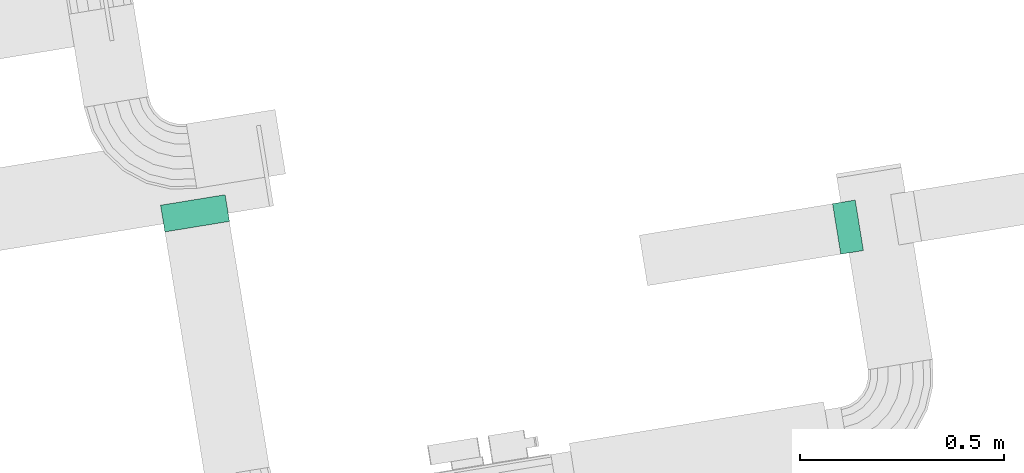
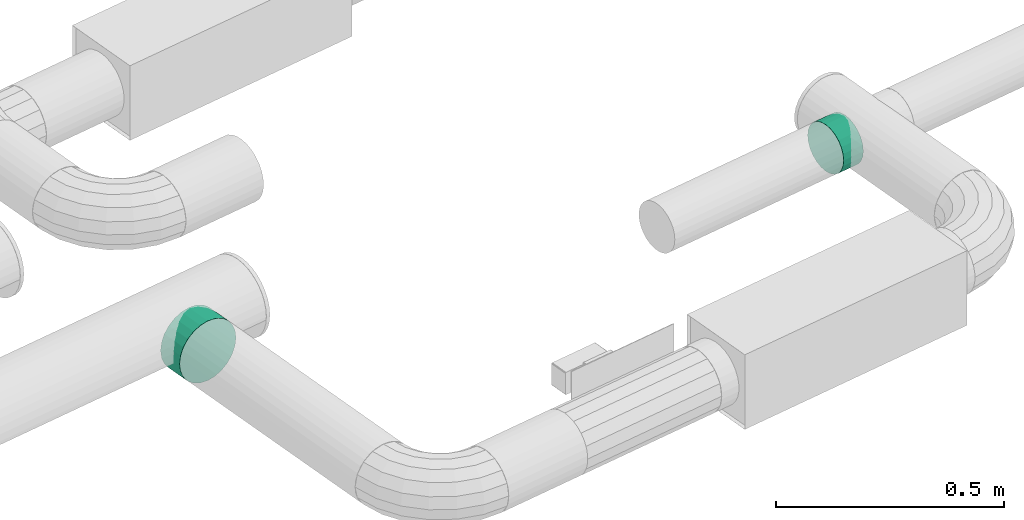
# One storey, part 14 of 19: 2 flow fittings.
"""IFC2X3 building model written with IfcOpenShell, lengths in millimetres."""

from ifc_helpers import new_model, entity, si_unit, converted_unit, derived_unit, direction, frame, origin, origin_with_axes, place, context, subcontext, project, spatial, faceted_brep, source, transform, mapped, material, type_object, element, save


model = new_model("IFC2X3")

# Units and contexts
model_context = context("Model", 3, precision=0.01, world=origin(), true_north=direction((6.12323399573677e-17, 1.0)))
plan_context = context("Plan", 3, precision=1e-05, world=origin_with_axes())
body_context = subcontext(model_context, "Body", "Model", "MODEL_VIEW")
ifc_project = project(units=[converted_unit("PLANEANGLEUNIT", "DEGREE", entity("IfcPositiveLengthMeasure", 0.0174532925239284), si_unit("PLANEANGLEUNIT", "RADIAN"), dimensions=[0, 0, 0, 0, 0, 0, 0]), si_unit("AREAUNIT", "SQUARE_METRE"), si_unit("LENGTHUNIT", "METRE", prefix="MILLI"), si_unit("MASSUNIT", "GRAM", prefix="KILO"), si_unit("POWERUNIT", "WATT"), si_unit("PRESSUREUNIT", "PASCAL", prefix="KILO"), si_unit("FORCEUNIT", "NEWTON", prefix="KILO"), si_unit("ELECTRICVOLTAGEUNIT", "VOLT"), si_unit("ELECTRICCURRENTUNIT", "AMPERE"), si_unit("THERMODYNAMICTEMPERATUREUNIT", "DEGREE_CELSIUS"), si_unit("TIMEUNIT", "SECOND"), si_unit("VOLUMEUNIT", "CUBIC_METRE"), derived_unit("LINEARVELOCITYUNIT", [(si_unit("LENGTHUNIT", "METRE"), 1), (si_unit("TIMEUNIT", "SECOND"), -1)]), derived_unit("VOLUMETRICFLOWRATEUNIT", [(si_unit("VOLUMEUNIT", "CUBIC_METRE"), 1), (si_unit("TIMEUNIT", "SECOND"), -1)]), derived_unit("THERMALTRANSMITTANCEUNIT", [(si_unit("POWERUNIT", "WATT"), 1), (si_unit("THERMODYNAMICTEMPERATUREUNIT", "KELVIN"), -1), (si_unit("AREAUNIT", "SQUARE_METRE"), -1)]), derived_unit("SOUNDPRESSUREUNIT", [(si_unit("PRESSUREUNIT", "PASCAL"), 1)])], contexts=[model_context, plan_context])

# Site, building, storey
site_placement = place(None, frame((5.09380697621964e-08, 5.80416781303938e-08, 0.0), z_axis=(0.0, 0.0, 1.0), x_axis=(-0.160806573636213, 0.986985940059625, 0.0)))
site = spatial("IfcSite", under=ifc_project, at=site_placement, Name="Default", CompositionType="ELEMENT")
building_placement = place(site_placement, frame((0.0, 0.0, 0.0), z_axis=(0.0, 0.0, 1.0), x_axis=(1.0, -2.77555756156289e-17, 0.0)))
building = spatial("IfcBuilding", under=site, at=building_placement, Name="Bygning (endres i Project Information)", CompositionType="ELEMENT")
storey_placement = place(building_placement, frame((0.0, 0.0, 51360.0000000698), z_axis=(0.0, 0.0, 1.0), x_axis=(1.0, -2.77555756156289e-17, 0.0)))
storey = spatial("IfcBuildingStorey", under=building, at=storey_placement, Name="H01-Nivå D+0,36", CompositionType="ELEMENT", Elevation=51360.0000000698)

# Flow fittings
ifc_material = material(Name="3601.001 Tilluft")
duct_fitting_type_1 = type_object("IfcDuctFittingType", Name="magicirc_tapoutlet_001:magicirc_tapoutlet_001", PredefinedType="NOTDEFINED", material=ifc_material)
shared_shape_1 = source(origin(), body_context, "Body", "Brep", [
    faceted_brep([(-36.1585390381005, 0.0, -62.5000000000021), (-36.1585390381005, -16.1761903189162, -60.3703641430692), (-36.1585390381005, -31.250000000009, -54.1265877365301), (-36.1585390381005, -44.1941738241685, -44.194173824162), (-36.1585390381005, -54.1265877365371, -31.2500000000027), (-36.1585390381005, -60.3703641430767, -16.1761903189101), (-36.1585390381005, -62.5000000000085, 0.0), (-36.1585390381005, -60.3703641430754, 16.1761903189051), (-36.1585390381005, -54.1265877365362, 31.2499999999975), (-36.1585390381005, -44.1941738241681, 44.1941738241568), (-36.1585390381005, -31.2500000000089, 54.1265877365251), (-36.1585390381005, -16.1761903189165, 60.3703641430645), (-36.1585390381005, 0.0, 62.4999999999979), (-36.1585390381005, 16.1761903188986, 60.3703641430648), (-36.1585390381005, 31.249999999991, 54.1265877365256), (-36.1585390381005, 44.1941738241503, 44.1941738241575), (-36.1585390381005, 54.1265877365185, 31.2499999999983), (-36.1585390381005, 60.3703641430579, 16.176190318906), (-36.1585390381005, 62.4999999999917, 0.0), (-36.1585390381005, 60.3703641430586, -16.1761903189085), (-36.1585390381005, 54.1265877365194, -31.2500000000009), (-36.1585390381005, 44.1941738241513, -44.1941738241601), (-36.1585390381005, 31.2499999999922, -54.1265877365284), (-36.1585390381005, 16.1761903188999, -60.3703641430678), (0.0, 0.0, 62.4999999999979), (20.0, 0.0, 62.4999999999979), (20.0, 16.1761903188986, 60.3703641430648), (0.0, 16.1761903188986, 60.3703641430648), (20.0, 31.249999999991, 54.1265877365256), (0.0, 31.249999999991, 54.1265877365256), (20.0, 44.1941738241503, 44.1941738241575), (0.0, 44.1941738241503, 44.1941738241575), (0.0, 54.1265877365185, 31.2499999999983), (20.0, 54.1265877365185, 31.2499999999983), (20.0, 60.3703641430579, 16.176190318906), (0.0, 60.3703641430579, 16.1761903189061), (20.0, 62.4999999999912, 0.0), (0.0, 62.4999999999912, 0.0), (20.0, 60.3703641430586, -16.1761903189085), (0.0, 60.3703641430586, -16.1761903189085), (20.0, 54.1265877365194, -31.2500000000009), (0.0, 54.1265877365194, -31.2500000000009), (20.0, 44.1941738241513, -44.1941738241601), (0.0, 44.1941738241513, -44.1941738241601), (0.0, 31.2499999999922, -54.1265877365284), (20.0, 31.2499999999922, -54.1265877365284), (20.0, 16.1761903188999, -60.3703641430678), (0.0, 16.1761903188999, -60.3703641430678), (20.0, 0.0, -62.5000000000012), (0.0, 0.0, -62.5000000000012), (20.0, -16.1761903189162, -60.3703641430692), (0.0, -16.1761903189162, -60.3703641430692), (20.0, -31.250000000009, -54.1265877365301), (0.0, -31.250000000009, -54.1265877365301), (20.0, -44.1941738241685, -44.194173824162), (0.0, -44.1941738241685, -44.194173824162), (0.0, -54.1265877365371, -31.2500000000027), (20.0, -54.1265877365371, -31.2500000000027), (20.0, -60.3703641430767, -16.1761903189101), (0.0, -60.3703641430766, -16.1761903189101), (20.0, -62.50000000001, 0.0), (0.0, -62.50000000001, 0.0), (20.0, -60.3703641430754, 16.1761903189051), (0.0, -60.3703641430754, 16.176190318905), (20.0, -54.1265877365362, 31.2499999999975), (0.0, -54.1265877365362, 31.2499999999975), (20.0, -44.1941738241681, 44.1941738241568), (0.0, -44.1941738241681, 44.1941738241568), (0.0, -31.2500000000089, 54.1265877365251), (20.0, -31.2500000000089, 54.1265877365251), (20.0, -16.1761903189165, 60.3703641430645), (0.0, -16.1761903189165, 60.3703641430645)], [[[0, 1, 2, 3, 4, 5, 6, 7, 8, 9, 10, 11, 12, 13, 14, 15, 16, 17, 18, 19, 20, 21, 22, 23]], [[12, 24, 25, 26, 27, 13]], [[13, 27, 26, 28, 29, 14]], [[14, 29, 28, 30, 31, 15]], [[16, 32, 33, 34, 35, 17]], [[17, 35, 34, 36, 37, 18]], [[15, 31, 30, 33, 32, 16]], [[18, 37, 36, 38, 39, 19]], [[19, 39, 38, 40, 41, 20]], [[20, 41, 40, 42, 43, 21]], [[22, 44, 45, 46, 47, 23]], [[23, 47, 46, 48, 49, 0]], [[21, 43, 42, 45, 44, 22]], [[0, 49, 48, 50, 51, 1]], [[1, 51, 50, 52, 53, 2]], [[2, 53, 52, 54, 55, 3]], [[4, 56, 57, 58, 59, 5]], [[6, 5, 59, 58, 60, 61]], [[3, 55, 54, 57, 56, 4]], [[6, 61, 60, 62, 63, 7]], [[7, 63, 62, 64, 65, 8]], [[8, 65, 64, 66, 67, 9]], [[10, 68, 69, 70, 71, 11]], [[11, 71, 70, 25, 24, 12]], [[9, 67, 66, 69, 68, 10]], [[46, 45, 42, 40, 38, 36, 34, 33, 30, 28, 26, 25, 70, 69, 66, 64, 62, 60, 58, 57, 54, 52, 50, 48]]]),
    faceted_brep([(20.0, 16.1761903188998, -60.3703641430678), (20.0, 31.2499999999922, -54.1265877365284), (20.0, 44.1941738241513, -44.1941738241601), (20.0, 54.1265877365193, -31.2500000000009), (20.0, 60.3703641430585, -16.1761903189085), (20.0, 62.4999999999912, 0.0), (20.0, 60.3703641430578, 16.176190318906), (20.0, 54.1265877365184, 31.2499999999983), (20.0, 44.1941738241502, 44.1941738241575), (20.0, 31.2499999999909, 54.1265877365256), (20.0, 16.1761903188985, 60.3703641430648), (20.0, 0.0, 62.4999999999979), (20.0, -16.1761903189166, 60.3703641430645), (20.0, -31.250000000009, 54.1265877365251), (20.0, -44.1941738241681, 44.1941738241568), (20.0, -54.1265877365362, 31.2499999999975), (20.0, -60.3703641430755, 16.1761903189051), (20.0, -62.5000000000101, 0.0), (20.0, -60.3703641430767, -16.1761903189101), (20.0, -54.1265877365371, -31.2500000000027), (20.0, -44.1941738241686, -44.194173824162), (20.0, -31.250000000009, -54.1265877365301), (20.0, -16.1761903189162, -60.3703641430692), (20.0, 0.0, -62.5000000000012), (0.0, 0.0, 62.4999999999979), (0.0, 16.1761903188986, 60.3703641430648), (-36.1585390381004, 16.1761903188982, 60.3703641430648), (-36.1585390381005, 0.0, 62.4999999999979), (0.0, 31.249999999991, 54.1265877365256), (-36.1585390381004, 31.2499999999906, 54.1265877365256), (0.0, 44.1941738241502, 44.1941738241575), (-36.1585390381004, 44.1941738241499, 44.1941738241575), (0.0, 54.1265877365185, 31.2499999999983), (0.0, 60.3703641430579, 16.176190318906), (-36.1585390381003, 60.3703641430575, 16.176190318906), (-36.1585390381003, 54.1265877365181, 31.2499999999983), (0.0, 62.4999999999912, 0.0), (-36.1585390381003, 62.4999999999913, 0.0), (0.0, 60.3703641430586, -16.1761903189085), (-36.1585390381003, 60.3703641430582, -16.1761903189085), (0.0, 54.1265877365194, -31.2500000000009), (-36.1585390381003, 54.126587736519, -31.2500000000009), (0.0, 44.1941738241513, -44.1941738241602), (-36.1585390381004, 44.1941738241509, -44.1941738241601), (0.0, 31.2499999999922, -54.1265877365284), (0.0, 16.1761903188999, -60.3703641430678), (-36.1585390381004, 16.1761903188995, -60.3703641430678), (-36.1585390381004, 31.2499999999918, -54.1265877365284), (0.0, 0.0, -62.5000000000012), (-36.1585390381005, 0.0, -62.5000000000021), (0.0, -16.1761903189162, -60.3703641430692), (-36.1585390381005, -16.1761903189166, -60.3703641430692), (0.0, -31.250000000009, -54.1265877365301), (-36.1585390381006, -31.2500000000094, -54.1265877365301), (0.0, -44.1941738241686, -44.194173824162), (-36.1585390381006, -44.1941738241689, -44.194173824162), (0.0, -54.1265877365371, -31.2500000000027), (0.0, -60.3703641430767, -16.17619031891), (-36.1585390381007, -60.370364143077, -16.1761903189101), (-36.1585390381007, -54.1265877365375, -31.2500000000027), (0.0, -62.50000000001, 0.0), (-36.1585390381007, -62.5000000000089, 0.0), (0.0, -60.3703641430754, 16.176190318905), (-36.1585390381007, -60.3703641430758, 16.1761903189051), (0.0, -54.1265877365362, 31.2499999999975), (-36.1585390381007, -54.1265877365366, 31.2499999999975), (0.0, -44.1941738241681, 44.1941738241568), (-36.1585390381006, -44.1941738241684, 44.1941738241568), (0.0, -31.2500000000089, 54.1265877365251), (0.0, -16.1761903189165, 60.3703641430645), (-36.1585390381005, -16.1761903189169, 60.3703641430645), (-36.1585390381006, -31.2500000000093, 54.1265877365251)], [[[0, 1, 2, 3, 4, 5, 6, 7, 8, 9, 10, 11, 12, 13, 14, 15, 16, 17, 18, 19, 20, 21, 22, 23]], [[24, 11, 10, 25, 26, 27]], [[25, 10, 9, 28, 29, 26]], [[28, 9, 8, 30, 31, 29]], [[32, 7, 6, 33, 34, 35]], [[33, 6, 5, 36, 37, 34]], [[30, 8, 7, 32, 35, 31]], [[36, 5, 4, 38, 39, 37]], [[38, 4, 3, 40, 41, 39]], [[40, 3, 2, 42, 43, 41]], [[44, 1, 0, 45, 46, 47]], [[45, 0, 23, 48, 49, 46]], [[42, 2, 1, 44, 47, 43]], [[48, 23, 22, 50, 51, 49]], [[50, 22, 21, 52, 53, 51]], [[52, 21, 20, 54, 55, 53]], [[56, 19, 18, 57, 58, 59]], [[57, 18, 17, 60, 61, 58]], [[54, 20, 19, 56, 59, 55]], [[60, 17, 16, 62, 63, 61]], [[62, 16, 15, 64, 65, 63]], [[64, 15, 14, 66, 67, 65]], [[68, 13, 12, 69, 70, 71]], [[69, 12, 11, 24, 27, 70]], [[66, 14, 13, 68, 71, 67]], [[49, 51, 53, 55, 59, 58, 61, 63, 65, 67, 71, 70, 27, 26, 29, 31, 35, 34, 37, 39, 41, 43, 47, 46]]]),
    faceted_brep([(-36.1585390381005, 0.0, -62.5000000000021), (-36.1585390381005, -16.1761903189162, -60.3703641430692), (-36.1585390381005, -31.250000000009, -54.1265877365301), (-36.1585390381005, -44.1941738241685, -44.194173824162), (-36.1585390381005, -54.1265877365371, -31.2500000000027), (-36.1585390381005, -60.3703641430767, -16.1761903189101), (-36.1585390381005, -62.5000000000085, 0.0), (-36.1585390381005, -60.3703641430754, 16.1761903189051), (-36.1585390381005, -54.1265877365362, 31.2499999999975), (-36.1585390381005, -44.1941738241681, 44.1941738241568), (-36.1585390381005, -31.2500000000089, 54.1265877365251), (-36.1585390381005, -16.1761903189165, 60.3703641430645), (-36.1585390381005, 0.0, 62.4999999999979), (-36.1585390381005, 16.1761903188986, 60.3703641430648), (-36.1585390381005, 31.249999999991, 54.1265877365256), (-36.1585390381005, 44.1941738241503, 44.1941738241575), (-36.1585390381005, 54.1265877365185, 31.2499999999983), (-36.1585390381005, 60.3703641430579, 16.176190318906), (-36.1585390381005, 62.4999999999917, 0.0), (-36.1585390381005, 60.3703641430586, -16.1761903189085), (-36.1585390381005, 54.1265877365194, -31.2500000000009), (-36.1585390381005, 44.1941738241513, -44.1941738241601), (-36.1585390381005, 31.2499999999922, -54.1265877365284), (-36.1585390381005, 16.1761903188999, -60.3703641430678), (0.0, 0.0, 62.4999999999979), (20.0, 0.0, 62.4999999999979), (20.0, 16.1761903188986, 60.3703641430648), (0.0, 16.1761903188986, 60.3703641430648), (20.0, 31.249999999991, 54.1265877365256), (0.0, 31.249999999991, 54.1265877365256), (20.0, 44.1941738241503, 44.1941738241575), (0.0, 44.1941738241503, 44.1941738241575), (0.0, 54.1265877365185, 31.2499999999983), (20.0, 54.1265877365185, 31.2499999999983), (20.0, 60.3703641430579, 16.176190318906), (0.0, 60.3703641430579, 16.1761903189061), (20.0, 62.4999999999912, 0.0), (0.0, 62.4999999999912, 0.0), (20.0, 60.3703641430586, -16.1761903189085), (0.0, 60.3703641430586, -16.1761903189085), (20.0, 54.1265877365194, -31.2500000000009), (0.0, 54.1265877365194, -31.2500000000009), (20.0, 44.1941738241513, -44.1941738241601), (0.0, 44.1941738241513, -44.1941738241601), (0.0, 31.2499999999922, -54.1265877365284), (20.0, 31.2499999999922, -54.1265877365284), (20.0, 16.1761903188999, -60.3703641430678), (0.0, 16.1761903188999, -60.3703641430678), (20.0, 0.0, -62.5000000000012), (0.0, 0.0, -62.5000000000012), (20.0, -16.1761903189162, -60.3703641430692), (0.0, -16.1761903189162, -60.3703641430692), (20.0, -31.250000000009, -54.1265877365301), (0.0, -31.250000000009, -54.1265877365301), (20.0, -44.1941738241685, -44.194173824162), (0.0, -44.1941738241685, -44.194173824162), (0.0, -54.1265877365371, -31.2500000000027), (20.0, -54.1265877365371, -31.2500000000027), (20.0, -60.3703641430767, -16.1761903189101), (0.0, -60.3703641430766, -16.1761903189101), (20.0, -62.50000000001, 0.0), (0.0, -62.50000000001, 0.0), (20.0, -60.3703641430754, 16.1761903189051), (0.0, -60.3703641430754, 16.176190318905), (20.0, -54.1265877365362, 31.2499999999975), (0.0, -54.1265877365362, 31.2499999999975), (20.0, -44.1941738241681, 44.1941738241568), (0.0, -44.1941738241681, 44.1941738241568), (0.0, -31.2500000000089, 54.1265877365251), (20.0, -31.2500000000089, 54.1265877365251), (20.0, -16.1761903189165, 60.3703641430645), (0.0, -16.1761903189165, 60.3703641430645)], [[[0, 1, 2, 3, 4, 5, 6, 7, 8, 9, 10, 11, 12, 13, 14, 15, 16, 17, 18, 19, 20, 21, 22, 23]], [[12, 24, 25, 26, 27, 13]], [[13, 27, 26, 28, 29, 14]], [[14, 29, 28, 30, 31, 15]], [[16, 32, 33, 34, 35, 17]], [[17, 35, 34, 36, 37, 18]], [[15, 31, 30, 33, 32, 16]], [[18, 37, 36, 38, 39, 19]], [[19, 39, 38, 40, 41, 20]], [[20, 41, 40, 42, 43, 21]], [[22, 44, 45, 46, 47, 23]], [[23, 47, 46, 48, 49, 0]], [[21, 43, 42, 45, 44, 22]], [[0, 49, 48, 50, 51, 1]], [[1, 51, 50, 52, 53, 2]], [[2, 53, 52, 54, 55, 3]], [[4, 56, 57, 58, 59, 5]], [[6, 5, 59, 58, 60, 61]], [[3, 55, 54, 57, 56, 4]], [[6, 61, 60, 62, 63, 7]], [[7, 63, 62, 64, 65, 8]], [[8, 65, 64, 66, 67, 9]], [[10, 68, 69, 70, 71, 11]], [[11, 71, 70, 25, 24, 12]], [[9, 67, 66, 69, 68, 10]], [[46, 45, 42, 40, 38, 36, 34, 33, 30, 28, 26, 25, 70, 69, 66, 64, 62, 60, 58, 57, 54, 52, 50, 48]]]),
])
flow_fitting_1_placement = place(storey_placement, frame((1007878.77940273, -388209.812917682, 3150.0), z_axis=(0.0, 0.0, -1.0), x_axis=(2.77555756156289e-17, 1.0, 0.0)))
element("IfcFlowFitting", 1, at=flow_fitting_1_placement, inside=storey, type_object=duct_fitting_type_1, material=ifc_material, Name="magicirc_tapoutlet_001:magicirc_tapoutlet_001", ObjectType="magicirc_tapoutlet_001:magicirc_tapoutlet_001", context=body_context, shape_type="MappedRepresentation", body=[
    mapped(shared_shape_1, transform((0.0, 0.0, 0.0), scale=1.0)),
])
duct_fitting_type_2 = type_object("IfcDuctFittingType", Name="magicirc_tapoutlet_001:magicirc_tapoutlet_001", PredefinedType="NOTDEFINED", material=ifc_material)
shared_shape_2 = source(origin(), body_context, "Body", "Brep", [
    faceted_brep([(-46.0960000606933, -80.0000001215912, 0.0), (-46.0960000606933, -77.2740662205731, 20.7055236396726), (-46.0960000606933, -69.2820324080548, 40.0000000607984), (-46.0960000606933, -56.5685425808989, 56.5685425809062), (-46.0960000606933, -40.0000000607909, 69.2820324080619), (-46.0960000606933, -20.705523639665, 77.27406622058), (-46.0960000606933, 0.0, 80.0000001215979), (-46.0960000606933, 20.7055236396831, 77.2740662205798), (-46.0960000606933, 40.000000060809, 69.2820324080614), (-46.0960000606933, 56.5685425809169, 56.5685425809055), (-46.0960000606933, 69.2820324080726, 40.0000000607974), (-46.0960000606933, 77.2740662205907, 20.7055236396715), (-46.0960000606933, 80.00000012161, 0.0), (-46.0960000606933, 77.2740662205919, -20.7055236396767), (-46.0960000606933, 69.2820324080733, -40.0000000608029), (-46.0960000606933, 56.5685425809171, -56.568542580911), (-46.0960000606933, 40.0000000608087, -69.2820324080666), (-46.0960000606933, 20.7055236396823, -77.2740662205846), (-46.0960000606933, 0.0, -80.0000001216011), (-46.0960000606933, -20.705523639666, -77.2740662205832), (-46.0960000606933, -40.0000000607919, -69.2820324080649), (-46.0960000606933, -56.5685425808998, -56.5685425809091), (-46.0960000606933, -69.2820324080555, -40.0000000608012), (-46.0960000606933, -77.2740662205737, -20.7055236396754), (0.0, -20.7055236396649, 77.2740662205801), (20.0, -20.705523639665, 77.27406622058), (20.0, 0.0, 80.0000001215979), (0.0, 0.0, 80.0000001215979), (0.0, -40.0000000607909, 69.2820324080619), (20.0, -40.0000000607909, 69.2820324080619), (0.0, -56.5685425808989, 56.5685425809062), (20.0, -56.5685425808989, 56.5685425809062), (0.0, -77.2740662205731, 20.7055236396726), (20.0, -77.2740662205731, 20.7055236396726), (20.0, -69.2820324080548, 40.0000000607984), (0.0, -69.2820324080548, 40.0000000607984), (0.0, -80.0000001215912, 0.0), (20.0, -80.0000001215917, 0.0), (0.0, -77.2740662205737, -20.7055236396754), (20.0, -77.2740662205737, -20.7055236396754), (0.0, -69.2820324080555, -40.0000000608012), (20.0, -69.2820324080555, -40.0000000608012), (0.0, -56.5685425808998, -56.5685425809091), (20.0, -56.5685425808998, -56.5685425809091), (0.0, -20.705523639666, -77.2740662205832), (20.0, -20.705523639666, -77.2740662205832), (20.0, -40.0000000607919, -69.2820324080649), (0.0, -40.0000000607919, -69.2820324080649), (0.0, 0.0, -80.0000001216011), (20.0, 0.0, -80.0000001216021), (0.0, 20.7055236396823, -77.2740662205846), (20.0, 20.7055236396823, -77.2740662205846), (0.0, 40.0000000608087, -69.2820324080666), (20.0, 40.0000000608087, -69.2820324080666), (0.0, 56.5685425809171, -56.568542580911), (20.0, 56.5685425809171, -56.568542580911), (0.0, 80.00000012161, 0.0), (20.0, 80.0000001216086, 0.0), (20.0, 77.2740662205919, -20.7055236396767), (0.0, 77.2740662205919, -20.7055236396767), (20.0, 69.2820324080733, -40.0000000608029), (0.0, 69.2820324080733, -40.0000000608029), (0.0, 77.2740662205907, 20.7055236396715), (20.0, 77.2740662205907, 20.7055236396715), (0.0, 69.2820324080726, 40.0000000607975), (20.0, 69.2820324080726, 40.0000000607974), (0.0, 56.5685425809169, 56.5685425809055), (20.0, 56.5685425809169, 56.5685425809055), (20.0, 20.7055236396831, 77.2740662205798), (0.0, 20.7055236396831, 77.2740662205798), (20.0, 40.000000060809, 69.2820324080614), (0.0, 40.000000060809, 69.2820324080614)], [[[0, 1, 2, 3, 4, 5, 6, 7, 8, 9, 10, 11, 12, 13, 14, 15, 16, 17, 18, 19, 20, 21, 22, 23]], [[24, 25, 26, 27, 6, 5]], [[28, 29, 25, 24, 5, 4]], [[3, 30, 31, 29, 28, 4]], [[32, 33, 34, 35, 2, 1]], [[36, 37, 33, 32, 1, 0]], [[2, 35, 34, 31, 30, 3]], [[38, 39, 37, 36, 0, 23]], [[40, 41, 39, 38, 23, 22]], [[21, 42, 43, 41, 40, 22]], [[44, 45, 46, 47, 20, 19]], [[48, 49, 45, 44, 19, 18]], [[20, 47, 46, 43, 42, 21]], [[50, 51, 49, 48, 18, 17]], [[52, 53, 51, 50, 17, 16]], [[15, 54, 55, 53, 52, 16]], [[12, 56, 57, 58, 59, 13]], [[13, 59, 58, 60, 61, 14]], [[61, 60, 55, 54, 15, 14]], [[62, 63, 57, 56, 12, 11]], [[64, 65, 63, 62, 11, 10]], [[9, 66, 67, 65, 64, 10]], [[6, 27, 26, 68, 69, 7]], [[8, 7, 69, 68, 70, 71]], [[8, 71, 70, 67, 66, 9]], [[49, 51, 53, 55, 60, 58, 57, 63, 65, 67, 70, 68, 26, 25, 29, 31, 34, 33, 37, 39, 41, 43, 46, 45]]]),
    faceted_brep([(20.0, 0.0, -80.0000001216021), (20.0, 20.7055236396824, -77.2740662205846), (20.0, 40.0000000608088, -69.2820324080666), (20.0, 56.5685425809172, -56.568542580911), (20.0, 69.2820324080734, -40.0000000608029), (20.0, 77.274066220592, -20.7055236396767), (20.0, 80.0000001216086, 0.0), (20.0, 77.2740662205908, 20.7055236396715), (20.0, 69.2820324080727, 40.0000000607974), (20.0, 56.568542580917, 56.5685425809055), (20.0, 40.0000000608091, 69.2820324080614), (20.0, 20.7055236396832, 77.2740662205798), (20.0, 0.0, 80.0000001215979), (20.0, -20.7055236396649, 77.27406622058), (20.0, -40.0000000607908, 69.2820324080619), (20.0, -56.5685425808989, 56.5685425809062), (20.0, -69.2820324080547, 40.0000000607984), (20.0, -77.274066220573, 20.7055236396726), (20.0, -80.0000001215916, 0.0), (20.0, -77.2740662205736, -20.7055236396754), (20.0, -69.2820324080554, -40.0000000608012), (20.0, -56.5685425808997, -56.5685425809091), (20.0, -40.0000000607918, -69.2820324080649), (20.0, -20.705523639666, -77.2740662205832), (0.0, 0.0, 80.0000001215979), (-46.0960000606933, 0.0, 80.0000001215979), (-46.0960000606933, -20.7055236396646, 77.27406622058), (0.0, -20.705523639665, 77.27406622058), (-46.0960000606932, -40.0000000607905, 69.2820324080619), (0.0, -40.0000000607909, 69.2820324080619), (0.0, -56.5685425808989, 56.5685425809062), (-46.0960000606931, -56.5685425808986, 56.5685425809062), (0.0, -69.2820324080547, 40.0000000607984), (-46.0960000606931, -69.2820324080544, 40.0000000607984), (-46.0960000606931, -77.2740662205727, 20.7055236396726), (0.0, -77.2740662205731, 20.7055236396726), (-46.0960000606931, -80.0000001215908, 0.0), (0.0, -80.0000001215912, 0.0), (-46.0960000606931, -77.2740662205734, -20.7055236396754), (0.0, -77.2740662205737, -20.7055236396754), (-46.0960000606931, -69.2820324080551, -40.0000000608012), (0.0, -69.2820324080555, -40.0000000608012), (0.0, -56.5685425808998, -56.5685425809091), (-46.0960000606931, -56.5685425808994, -56.5685425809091), (0.0, 0.0, -80.0000001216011), (0.0, -20.705523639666, -77.2740662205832), (-46.0960000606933, -20.7055236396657, -77.2740662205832), (-46.0960000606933, 0.0, -80.0000001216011), (0.0, -40.0000000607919, -69.2820324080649), (-46.0960000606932, -40.0000000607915, -69.2820324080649), (-46.0960000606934, 20.7055236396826, -77.2740662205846), (0.0, 20.7055236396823, -77.2740662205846), (-46.0960000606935, 40.000000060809, -69.2820324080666), (0.0, 40.0000000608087, -69.2820324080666), (0.0, 56.5685425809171, -56.568542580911), (-46.0960000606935, 56.5685425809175, -56.568542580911), (0.0, 69.2820324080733, -40.0000000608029), (-46.0960000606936, 69.2820324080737, -40.0000000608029), (-46.0960000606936, 77.2740662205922, -20.7055236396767), (0.0, 77.2740662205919, -20.7055236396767), (-46.0960000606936, 80.0000001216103, 0.0), (0.0, 80.00000012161, 0.0), (-46.0960000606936, 77.2740662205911, 20.7055236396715), (0.0, 77.2740662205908, 20.7055236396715), (-46.0960000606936, 69.282032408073, 40.0000000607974), (0.0, 69.2820324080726, 40.0000000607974), (0.0, 56.5685425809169, 56.5685425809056), (-46.0960000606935, 56.5685425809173, 56.5685425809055), (0.0, 40.000000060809, 69.2820324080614), (-46.0960000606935, 40.0000000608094, 69.2820324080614), (-46.0960000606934, 20.7055236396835, 77.2740662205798), (0.0, 20.7055236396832, 77.2740662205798)], [[[0, 1, 2, 3, 4, 5, 6, 7, 8, 9, 10, 11, 12, 13, 14, 15, 16, 17, 18, 19, 20, 21, 22, 23]], [[13, 12, 24, 25, 26, 27]], [[14, 13, 27, 26, 28, 29]], [[30, 15, 14, 29, 28, 31]], [[17, 16, 32, 33, 34, 35]], [[18, 17, 35, 34, 36, 37]], [[32, 16, 15, 30, 31, 33]], [[19, 18, 37, 36, 38, 39]], [[20, 19, 39, 38, 40, 41]], [[42, 21, 20, 41, 40, 43]], [[44, 0, 23, 45, 46, 47]], [[48, 49, 46, 45, 23, 22]], [[48, 22, 21, 42, 43, 49]], [[1, 0, 44, 47, 50, 51]], [[2, 1, 51, 50, 52, 53]], [[54, 3, 2, 53, 52, 55]], [[5, 4, 56, 57, 58, 59]], [[6, 5, 59, 58, 60, 61]], [[56, 4, 3, 54, 55, 57]], [[7, 6, 61, 60, 62, 63]], [[8, 7, 63, 62, 64, 65]], [[66, 9, 8, 65, 64, 67]], [[11, 10, 68, 69, 70, 71]], [[12, 11, 71, 70, 25, 24]], [[68, 10, 9, 66, 67, 69]], [[36, 34, 33, 31, 28, 26, 25, 70, 69, 67, 64, 62, 60, 58, 57, 55, 52, 50, 47, 46, 49, 43, 40, 38]]]),
    faceted_brep([(-46.0960000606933, -80.0000001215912, 0.0), (-46.0960000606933, -77.2740662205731, 20.7055236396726), (-46.0960000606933, -69.2820324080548, 40.0000000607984), (-46.0960000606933, -56.5685425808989, 56.5685425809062), (-46.0960000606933, -40.0000000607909, 69.2820324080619), (-46.0960000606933, -20.705523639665, 77.27406622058), (-46.0960000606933, 0.0, 80.0000001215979), (-46.0960000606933, 20.7055236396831, 77.2740662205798), (-46.0960000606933, 40.000000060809, 69.2820324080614), (-46.0960000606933, 56.5685425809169, 56.5685425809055), (-46.0960000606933, 69.2820324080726, 40.0000000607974), (-46.0960000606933, 77.2740662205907, 20.7055236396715), (-46.0960000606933, 80.00000012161, 0.0), (-46.0960000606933, 77.2740662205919, -20.7055236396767), (-46.0960000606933, 69.2820324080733, -40.0000000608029), (-46.0960000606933, 56.5685425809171, -56.568542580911), (-46.0960000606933, 40.0000000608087, -69.2820324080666), (-46.0960000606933, 20.7055236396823, -77.2740662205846), (-46.0960000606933, 0.0, -80.0000001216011), (-46.0960000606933, -20.705523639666, -77.2740662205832), (-46.0960000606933, -40.0000000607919, -69.2820324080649), (-46.0960000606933, -56.5685425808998, -56.5685425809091), (-46.0960000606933, -69.2820324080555, -40.0000000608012), (-46.0960000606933, -77.2740662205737, -20.7055236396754), (0.0, -20.7055236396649, 77.2740662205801), (20.0, -20.705523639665, 77.27406622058), (20.0, 0.0, 80.0000001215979), (0.0, 0.0, 80.0000001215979), (0.0, -40.0000000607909, 69.2820324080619), (20.0, -40.0000000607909, 69.2820324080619), (0.0, -56.5685425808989, 56.5685425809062), (20.0, -56.5685425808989, 56.5685425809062), (0.0, -77.2740662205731, 20.7055236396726), (20.0, -77.2740662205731, 20.7055236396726), (20.0, -69.2820324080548, 40.0000000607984), (0.0, -69.2820324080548, 40.0000000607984), (0.0, -80.0000001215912, 0.0), (20.0, -80.0000001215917, 0.0), (0.0, -77.2740662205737, -20.7055236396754), (20.0, -77.2740662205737, -20.7055236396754), (0.0, -69.2820324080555, -40.0000000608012), (20.0, -69.2820324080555, -40.0000000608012), (0.0, -56.5685425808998, -56.5685425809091), (20.0, -56.5685425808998, -56.5685425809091), (0.0, -20.705523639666, -77.2740662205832), (20.0, -20.705523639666, -77.2740662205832), (20.0, -40.0000000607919, -69.2820324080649), (0.0, -40.0000000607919, -69.2820324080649), (0.0, 0.0, -80.0000001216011), (20.0, 0.0, -80.0000001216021), (0.0, 20.7055236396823, -77.2740662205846), (20.0, 20.7055236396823, -77.2740662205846), (0.0, 40.0000000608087, -69.2820324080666), (20.0, 40.0000000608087, -69.2820324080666), (0.0, 56.5685425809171, -56.568542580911), (20.0, 56.5685425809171, -56.568542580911), (0.0, 80.00000012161, 0.0), (20.0, 80.0000001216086, 0.0), (20.0, 77.2740662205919, -20.7055236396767), (0.0, 77.2740662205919, -20.7055236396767), (20.0, 69.2820324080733, -40.0000000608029), (0.0, 69.2820324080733, -40.0000000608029), (0.0, 77.2740662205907, 20.7055236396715), (20.0, 77.2740662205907, 20.7055236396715), (0.0, 69.2820324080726, 40.0000000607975), (20.0, 69.2820324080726, 40.0000000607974), (0.0, 56.5685425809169, 56.5685425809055), (20.0, 56.5685425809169, 56.5685425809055), (20.0, 20.7055236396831, 77.2740662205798), (0.0, 20.7055236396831, 77.2740662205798), (20.0, 40.000000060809, 69.2820324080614), (0.0, 40.000000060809, 69.2820324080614)], [[[0, 1, 2, 3, 4, 5, 6, 7, 8, 9, 10, 11, 12, 13, 14, 15, 16, 17, 18, 19, 20, 21, 22, 23]], [[24, 25, 26, 27, 6, 5]], [[28, 29, 25, 24, 5, 4]], [[3, 30, 31, 29, 28, 4]], [[32, 33, 34, 35, 2, 1]], [[36, 37, 33, 32, 1, 0]], [[2, 35, 34, 31, 30, 3]], [[38, 39, 37, 36, 0, 23]], [[40, 41, 39, 38, 23, 22]], [[21, 42, 43, 41, 40, 22]], [[44, 45, 46, 47, 20, 19]], [[48, 49, 45, 44, 19, 18]], [[20, 47, 46, 43, 42, 21]], [[50, 51, 49, 48, 18, 17]], [[52, 53, 51, 50, 17, 16]], [[15, 54, 55, 53, 52, 16]], [[12, 56, 57, 58, 59, 13]], [[13, 59, 58, 60, 61, 14]], [[61, 60, 55, 54, 15, 14]], [[62, 63, 57, 56, 12, 11]], [[64, 65, 63, 62, 11, 10]], [[9, 66, 67, 65, 64, 10]], [[6, 27, 26, 68, 69, 7]], [[8, 7, 69, 68, 70, 71]], [[8, 71, 70, 67, 66, 9]], [[49, 51, 53, 55, 60, 58, 57, 63, 65, 67, 70, 68, 26, 25, 29, 31, 34, 33, 37, 39, 41, 43, 46, 45]]]),
])
flow_fitting_2_placement = place(storey_placement, frame((1008155.86764278, -386647.343203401, 3150.0), z_axis=(0.0, 0.0, -1.0), x_axis=(-1.0, 2.77555756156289e-17, 0.0)))
element("IfcFlowFitting", 2, at=flow_fitting_2_placement, inside=storey, type_object=duct_fitting_type_2, material=ifc_material, Name="magicirc_tapoutlet_001:magicirc_tapoutlet_001", ObjectType="magicirc_tapoutlet_001:magicirc_tapoutlet_001", context=body_context, shape_type="MappedRepresentation", body=[
    mapped(shared_shape_2, transform((0.0, 0.0, 0.0), scale=1.0)),
])

save(model, "model.ifc")
